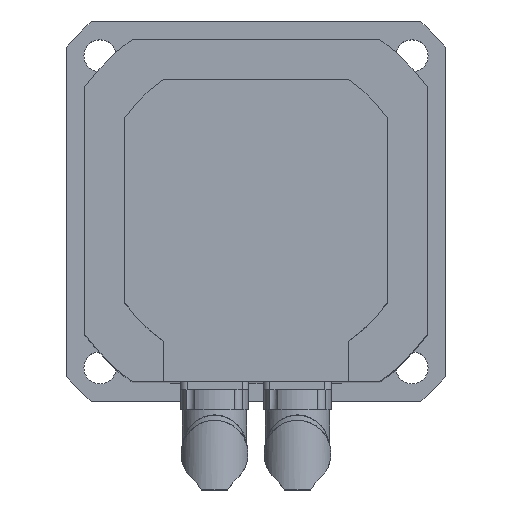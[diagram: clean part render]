
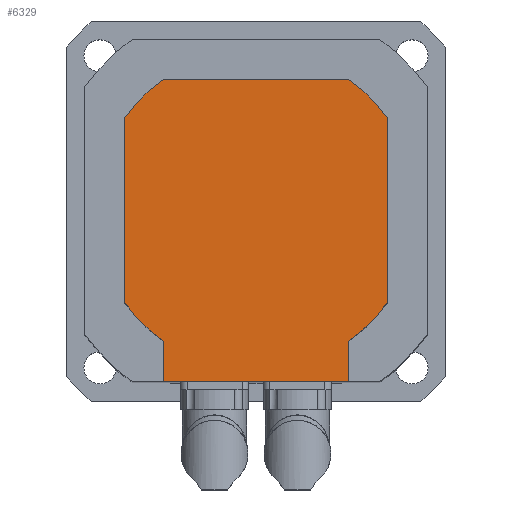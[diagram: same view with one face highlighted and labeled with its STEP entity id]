
A CAD part, top view. The second image highlights one B-rep face of the part: STEP entity #6329.
In plain terms, the highlighted planar face has unit normal (0, 0, 1).
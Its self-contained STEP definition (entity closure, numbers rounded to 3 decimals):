
#5733=CARTESIAN_POINT('',(-49.,-34.627,45.0));
#5734=VERTEX_POINT('',#5733);
#5741=CARTESIAN_POINT('',(-49.,34.627,45.0));
#5742=VERTEX_POINT('',#5741);
#5743=CARTESIAN_POINT('',(-49.,34.627,45.0));
#5744=DIRECTION('',(0.0,-1.0,0.0));
#5745=VECTOR('',#5744,69.253);
#5746=LINE('',#5743,#5745);
#5747=EDGE_CURVE('',#5742,#5734,#5746,.T.);
#5791=CARTESIAN_POINT('',(49.0,34.627,45.0));
#5792=VERTEX_POINT('',#5791);
#5799=CARTESIAN_POINT('',(49.0,-34.627,45.0));
#5800=VERTEX_POINT('',#5799);
#5801=CARTESIAN_POINT('',(49.0,-34.627,45.0));
#5802=DIRECTION('',(0.0,1.0,0.0));
#5803=VECTOR('',#5802,69.253);
#5804=LINE('',#5801,#5803);
#5805=EDGE_CURVE('',#5800,#5792,#5804,.T.);
#6147=CARTESIAN_POINT('',(-34.627,49.0,45.0));
#6148=VERTEX_POINT('',#6147);
#6155=CARTESIAN_POINT('',(34.627,49.0,45.0));
#6156=VERTEX_POINT('',#6155);
#6157=CARTESIAN_POINT('',(34.627,49.0,45.0));
#6158=DIRECTION('',(-1.0,0.0,0.0));
#6159=VECTOR('',#6158,69.253);
#6160=LINE('',#6157,#6159);
#6161=EDGE_CURVE('',#6156,#6148,#6160,.T.);
#6179=CARTESIAN_POINT('',(34.627,-49.0,45.0));
#6180=VERTEX_POINT('',#6179);
#6181=CARTESIAN_POINT('',(0.0,0.0,45.0));
#6182=DIRECTION('',(0.0,0.0,-1.0));
#6183=DIRECTION('',(-1.0,0.0,0.0));
#6184=AXIS2_PLACEMENT_3D('',#6181,#6182,#6183);
#6185=CIRCLE('',#6184,60.0);
#6186=EDGE_CURVE('',#5800,#6180,#6185,.T.);
#6204=CARTESIAN_POINT('',(0.0,0.0,45.0));
#6205=DIRECTION('',(0.0,0.0,-1.0));
#6206=DIRECTION('',(-1.0,0.0,0.0));
#6207=AXIS2_PLACEMENT_3D('',#6204,#6205,#6206);
#6208=CIRCLE('',#6207,60.0);
#6209=EDGE_CURVE('',#6156,#5792,#6208,.T.);
#6222=CARTESIAN_POINT('',(0.0,0.0,45.0));
#6223=DIRECTION('',(0.0,0.0,-1.0));
#6224=DIRECTION('',(-1.0,0.0,0.0));
#6225=AXIS2_PLACEMENT_3D('',#6222,#6223,#6224);
#6226=CIRCLE('',#6225,60.0);
#6227=EDGE_CURVE('',#5742,#6148,#6226,.T.);
#6241=CARTESIAN_POINT('',(-34.627,-49.0,45.0));
#6242=VERTEX_POINT('',#6241);
#6249=CARTESIAN_POINT('',(0.0,0.0,45.0));
#6250=DIRECTION('',(0.0,0.0,-1.0));
#6251=DIRECTION('',(-1.0,0.0,0.0));
#6252=AXIS2_PLACEMENT_3D('',#6249,#6250,#6251);
#6253=CIRCLE('',#6252,60.0);
#6254=EDGE_CURVE('',#6242,#5734,#6253,.T.);
#6266=CARTESIAN_POINT('',(34.627,-64.0,45.0));
#6267=VERTEX_POINT('',#6266);
#6268=CARTESIAN_POINT('',(34.627,-49.0,45.0));
#6269=DIRECTION('',(0.0,-1.0,0.0));
#6270=VECTOR('',#6269,15.0);
#6271=LINE('',#6268,#6270);
#6272=EDGE_CURVE('',#6180,#6267,#6271,.T.);
#6288=CARTESIAN_POINT('',(-34.627,-64.0,45.0));
#6289=VERTEX_POINT('',#6288);
#6296=CARTESIAN_POINT('',(-34.627,-49.0,45.0));
#6297=DIRECTION('',(0.0,-1.0,0.0));
#6298=VECTOR('',#6297,15.0);
#6299=LINE('',#6296,#6298);
#6300=EDGE_CURVE('',#6242,#6289,#6299,.T.);
#6307=CARTESIAN_POINT('',(49.,-64.,45.0));
#6308=DIRECTION('',(0.0,0.0,-1.0));
#6309=DIRECTION('',(-1.0,0.0,0.0));
#6310=AXIS2_PLACEMENT_3D('',#6307,#6308,#6309);
#6311=PLANE('',#6310);
#6312=ORIENTED_EDGE('',*,*,#5747,.T.);
#6313=ORIENTED_EDGE('',*,*,#6254,.F.);
#6314=ORIENTED_EDGE('',*,*,#6300,.T.);
#6315=CARTESIAN_POINT('',(34.627,-64.0,45.0));
#6316=DIRECTION('',(-1.0,0.0,0.0));
#6317=VECTOR('',#6316,69.253);
#6318=LINE('',#6315,#6317);
#6319=EDGE_CURVE('',#6267,#6289,#6318,.T.);
#6320=ORIENTED_EDGE('',*,*,#6319,.F.);
#6321=ORIENTED_EDGE('',*,*,#6272,.F.);
#6322=ORIENTED_EDGE('',*,*,#6186,.F.);
#6323=ORIENTED_EDGE('',*,*,#5805,.T.);
#6324=ORIENTED_EDGE('',*,*,#6209,.F.);
#6325=ORIENTED_EDGE('',*,*,#6161,.T.);
#6326=ORIENTED_EDGE('',*,*,#6227,.F.);
#6327=EDGE_LOOP('',(#6312,#6313,#6314,#6320,#6321,#6322,#6323,#6324,#6325,#6326));
#6328=FACE_OUTER_BOUND('',#6327,.T.);
#6329=ADVANCED_FACE('',(#6328),#6311,.F.);
